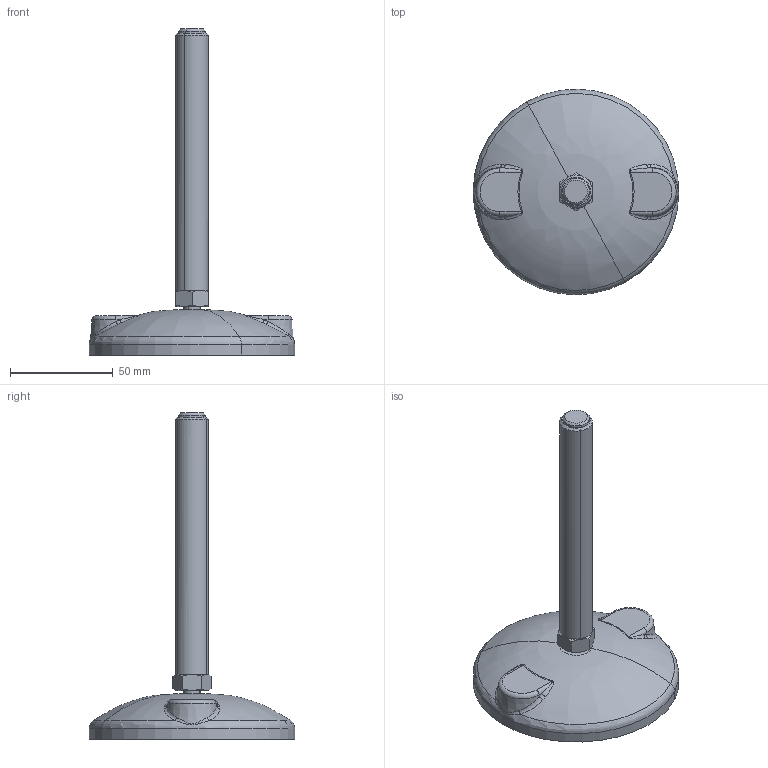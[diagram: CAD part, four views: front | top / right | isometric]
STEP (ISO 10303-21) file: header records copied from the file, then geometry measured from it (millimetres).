
FILE_DESCRIPTION(('CATIA V5 STEP Exchange'),'2;1');
FILE_NAME('X:\CODICI MOVEX\3D per clienti\KHS\26-08-2014\P95602H_01.stp','2014-08-26T09:14:12+00:00',('none'),('none'),'Version 5-6 Release 2012','CATIA V5 STEP AP203','none');
FILE_SCHEMA(('CONFIG_CONTROL_DESIGN'));
Length unit declared in the file: millimetre
Products named in the file (1): P95602H_01
Assembly tree (2 placements, depth 2):
  P95602H_01
    #57
    #936
Bounding box: 99.97 x 99.97 x 158.5 mm (x, y, z)
Volume: 82002.9 mm3; surface area: 54241.3 mm2
Topology: 2 solids, 4 shells, 639 faces, 1824 edges, 1201 vertices
Faces by surface type: plane 490, torus 50, cylinder 30, revolution 23, sphere 18, cone 14, bspline 14
Entity records: 24593 total; most frequent: CARTESIAN_POINT 10537, ORIENTED_EDGE 3636, EDGE_CURVE 1818, DIRECTION 1763, VERTEX_POINT 1201, B_SPLINE_CURVE_WITH_KNOTS 1067, AXIS2_PLACEMENT_3D 713, EDGE_LOOP 655
